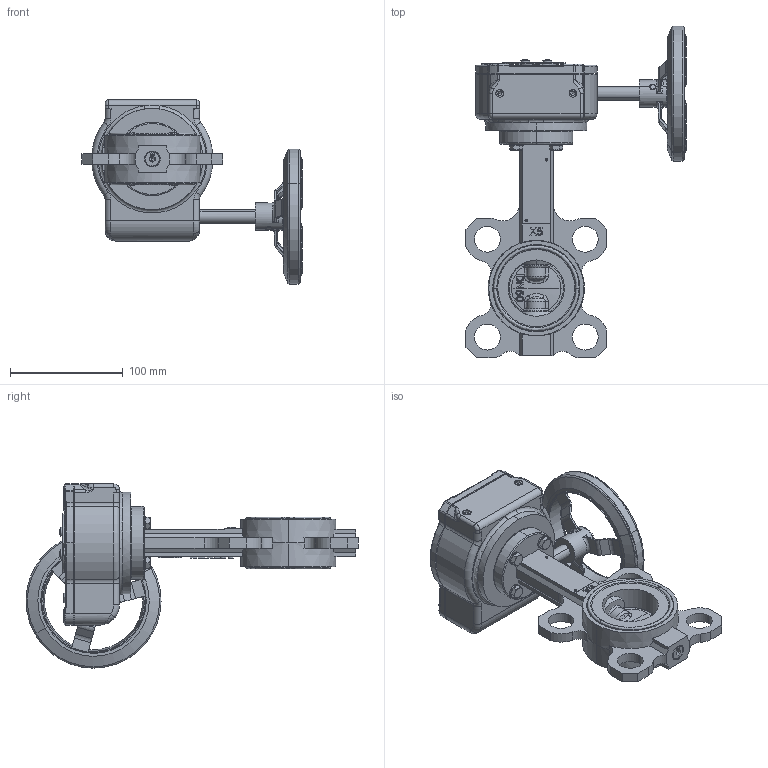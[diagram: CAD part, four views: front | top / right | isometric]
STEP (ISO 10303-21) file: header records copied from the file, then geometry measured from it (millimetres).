
FILE_DESCRIPTION (( 'STEP AP203' ), '1' );
FILE_NAME ('VPI-08 DN50.step', '2016-09-29T14:02:48', ( 'TECOFI' ), ( '' ), 'SwSTEP 2.0', 'SolidWorks 2014', '' );
FILE_SCHEMA (( 'CONFIG_CONTROL_DESIGN' ));
Products named in the file (1): VPI-08 DN50
Bounding box: 195.58 x 295 x 163.75 mm (x, y, z)
Volume: 785394.6 mm3; surface area: 268695.5 mm2
Topology: 33 solids, 34 shells, 2705 faces, 6994 edges, 4391 vertices
Faces by surface type: plane 1047, cylinder 622, bspline 563, cone 261, torus 189, sphere 23
Entity records: 117748 total; most frequent: CARTESIAN_POINT 56651, ORIENTED_EDGE 13796, DIRECTION 11132, EDGE_CURVE 6898, VERTEX_POINT 4391, AXIS2_PLACEMENT_3D 3990, LINE 3152, VECTOR 3152
